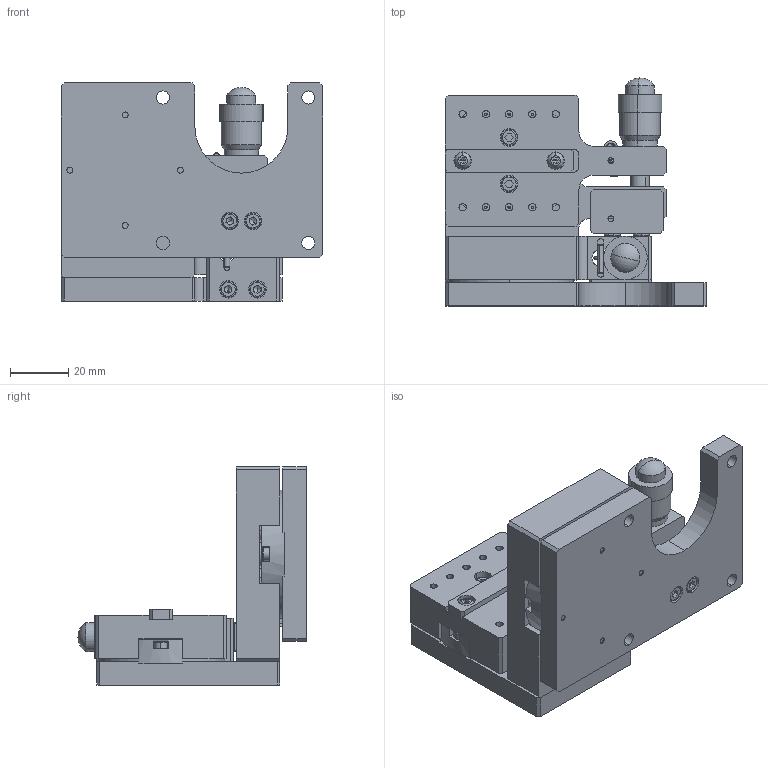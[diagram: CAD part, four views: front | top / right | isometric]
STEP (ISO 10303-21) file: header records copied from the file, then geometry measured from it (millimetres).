
FILE_DESCRIPTION (( 'STEP AP214' ), '1' );
FILE_NAME ('UFP2T-L.STEP', '2024-05-09T08:38:20', ( '' ), ( '' ), 'SwSTEP 2.0', 'SolidWorks 2021', '' );
FILE_SCHEMA (( 'AUTOMOTIVE_DESIGN' ));
Length unit declared in the file: millimetre
Products named in the file (1): UFP2T-L
Bounding box: 90 x 78.5 x 75 mm (x, y, z)
Surface area: 52129.8 mm2 (no closed solid volume)
Topology: 0 solids, 55 shells, 554 faces, 1725 edges, 1154 vertices
Faces by surface type: plane 282, cylinder 180, cone 42, torus 32, bspline 10, sphere 8
Entity records: 30224 total; most frequent: CARTESIAN_POINT 8518, DIRECTION 3443, ORIENTED_EDGE 2858, EDGE_CURVE 1701, AXIS2_PLACEMENT_3D 1244, VERTEX_POINT 1154, LINE 955, VECTOR 955
